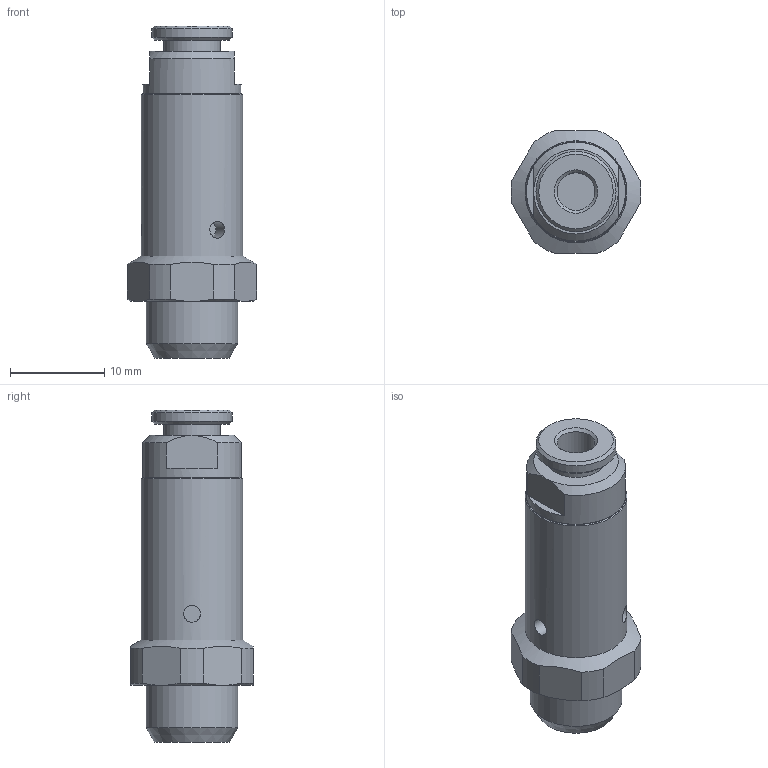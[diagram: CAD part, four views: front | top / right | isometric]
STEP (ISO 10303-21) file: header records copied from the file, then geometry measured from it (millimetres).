
FILE_DESCRIPTION(/* description */ ('VALVOLA S.RAPIDO IN Tubo d.4 OUT G1/8"'),/* implementation_level */ '2;1');
FILE_NAME(/* name */ 'I:\Area Tecnica\Disegni\VARIE-3D\Componenti\600\6_02_##_##_L\6_02_04_18_L.stp',/* time_stamp */ '2017-01-20T13:58:59+01:00',/* author */ ('maniean1'),/* organization */ ('Pneumax S.p.A.'),/* preprocessor_version */ 'ST-DEVELOPER v15.2',/* originating_system */ 'Autodesk Inventor 2014',/* authorisation */ '');
FILE_SCHEMA (('AUTOMOTIVE_DESIGN { 1 0 10303 214 3 1 1 }'));
Length unit declared in the file: millimetre
Products named in the file (1): 6_02_04_18_L
Bounding box: 13.77 x 13 x 35.2 mm (x, y, z)
Volume: 2972.4 mm3; surface area: 1635 mm2
Topology: 1 solids, 1 shells, 49 faces, 103 edges, 64 vertices
Faces by surface type: plane 20, cylinder 15, cone 14
Full cylindrical faces by diameter (mm): 1.8 x3, 4 x1, 6 x1, 8.5 x1, 9.728 x1, 10.5 x1, 10.8 x1
Entity records: 1310 total; most frequent: CARTESIAN_POINT 341, DIRECTION 204, ORIENTED_EDGE 172, AXIS2_PLACEMENT_3D 93, EDGE_CURVE 86, EDGE_LOOP 72, VERTEX_POINT 62, ADVANCED_FACE 49
